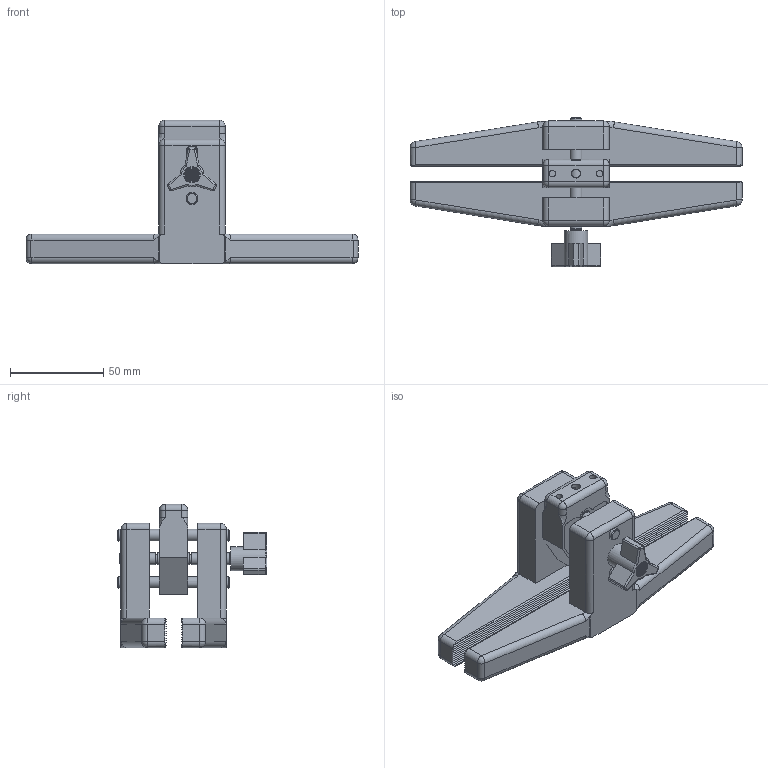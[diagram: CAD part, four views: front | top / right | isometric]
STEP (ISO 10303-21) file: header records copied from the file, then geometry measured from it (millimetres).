
FILE_DESCRIPTION((''),'2;1');
FILE_NAME('F:\CAD files\Itr\3D MARKETING MODELS\GRIPS\G1015-3\G1015-3.stp','2017-04-19T13:56:58',('mlampen'),(''),'Autodesk Inventor 2010','Autodesk Inventor 2010','');
FILE_SCHEMA(('AUTOMOTIVE_DESIGN { 1 0 10303 214 1 1 1 1 }'));
Length unit declared in the file: inch
Products named in the file (6): Assembly1; Part2; Part4; Part6; Part8; Part10
Assembly tree (5 placements, depth 2):
  Assembly1
    Part2
    Part4
    Part6
    Part8
    Part10
Bounding box: 177.8 x 80.04 x 76.83 mm (x, y, z)
Volume: 185096.1 mm3; surface area: 54778.6 mm2
Topology: 10 solids, 15 shells, 656 faces, 1863 edges, 1280 vertices
Faces by surface type: plane 317, cylinder 229, cone 39, bspline 38, sphere 22, torus 11
Full cylindrical faces by diameter (mm): 0.127 x1, 0.381 x1, 0.635 x1, 0.889 x1, 1.041 x12, 1.143 x1, 1.397 x1, 1.651 x1, 1.905 x1, 2.159 x1, 2.413 x1, 2.667 x1, 2.921 x1, 3.175 x1, 3.429 x1, 3.505 x17, 3.683 x1, 3.81 x5, 3.937 x1, 4.191 x1, 4.445 x1, 4.699 x1, 4.75 x2, 4.763 x2, 4.775 x2, 4.826 x5, 4.953 x1, 5.207 x1, 5.461 x1, 5.715 x1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
Entity records: 32375 total; most frequent: CARTESIAN_POINT 16897, ORIENTED_EDGE 3310, DIRECTION 2967, EDGE_CURVE 1655, VERTEX_POINT 1237, AXIS2_PLACEMENT_3D 1181, EDGE_LOOP 900, FACE_OUTER_BOUND 643
